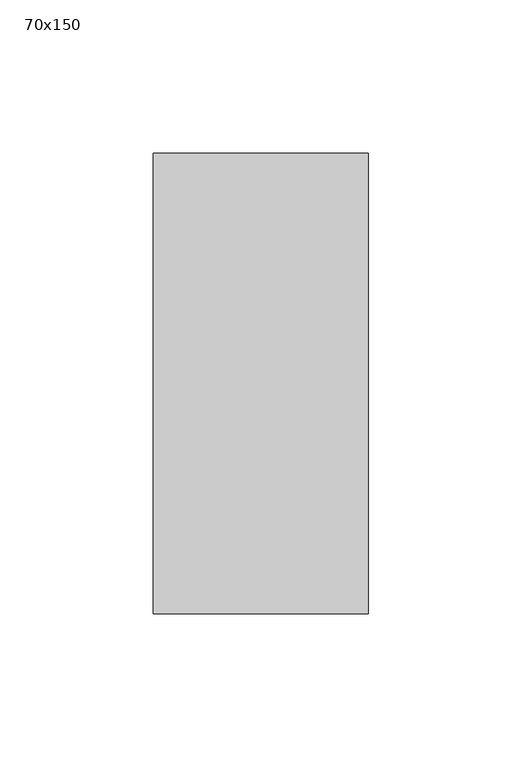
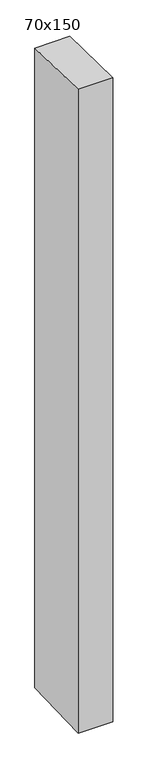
"""IFC4 building model written with IfcOpenShell, lengths in millimetres: member geometry, 長方形のマリオン : 70x150."""

from ifc_helpers import new_model, si_unit, frame, origin, place, context, project, spatial, polyline, outline, extrude, source, transform, mapped, element, save


def member_70x150_83a150f0(model_context):
    return source(origin(), model_context, "Body", "SweptSolid", [
        extrude(outline(polyline([(-75.0, 1.6445347), (75.0, -1.6445347), (75.0, -1360.0446701), (-75.0, -1364.8328756), (-75.0, 1.6445347)])), frame((-70.0, 0.0, 0.0), z_axis=(1.0, 0.0, 0.0), x_axis=(0.0, 1.0, 0.0)), (0.0, 0.0, 1.0), 70.0),
    ])


if __name__ == "__main__":
    model = new_model("IFC4")
    model_context = context("Model", 3, world=origin())
    ifc_project = project(units=[si_unit("LENGTHUNIT", "METRE", prefix="MILLI")], contexts=[model_context])
    site = spatial("IfcSite", under=ifc_project)
    building = spatial("IfcBuilding", under=site)
    placement = place(None, origin())
    member_70x150_shape = member_70x150_83a150f0(model_context)
    element("IfcMember", 1, ObjectType="長方形のマリオン : 70x150", at=placement, inside=building, context=model_context, shape_type="MappedRepresentation", body=[
        mapped(member_70x150_shape, transform((0.0, 0.0, 0.0), x_axis=(1.0, 0.0, 0.0), y_axis=(0.0, 1.0, 0.0), z_axis=(0.0, 0.0, 1.0))),
    ])
    save(model, "model.ifc")
